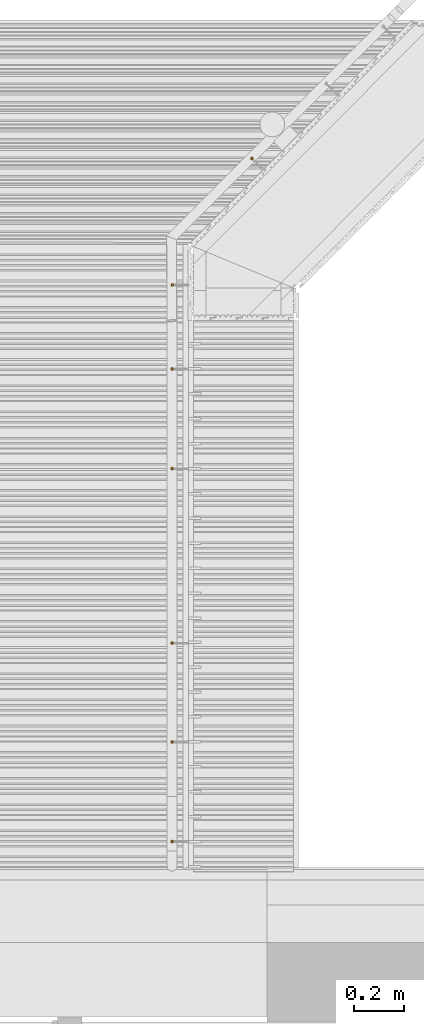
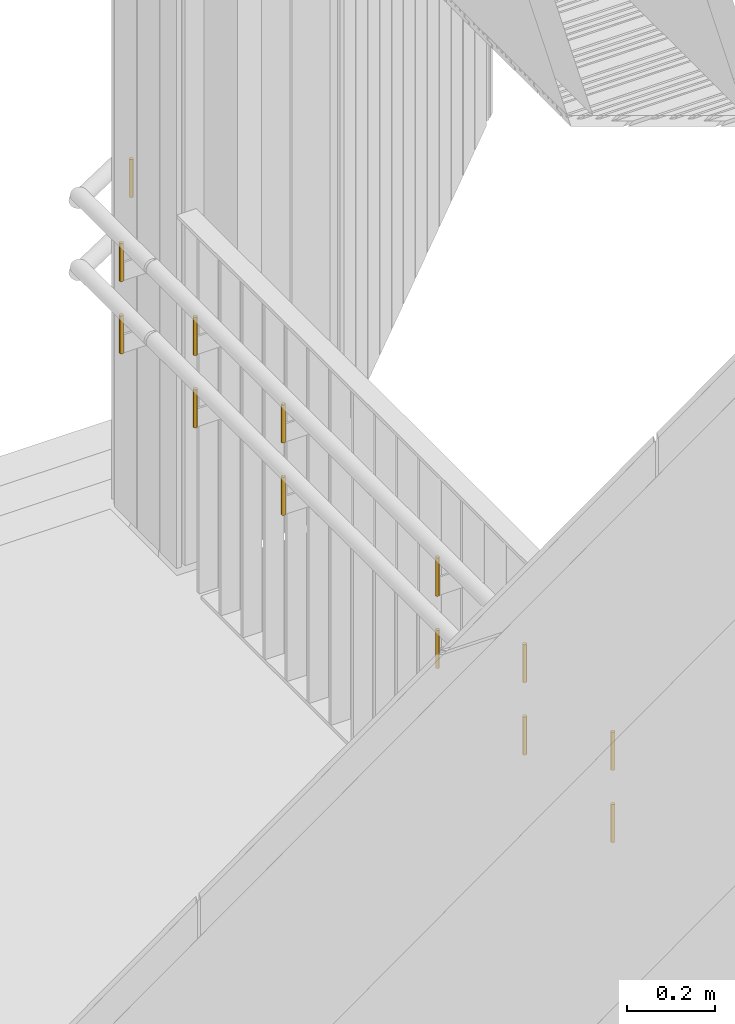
# One storey, part 163 of 418: 13 railings.
"""IFC2X3 building model written with IfcOpenShell, lengths in millimetres."""

from ifc_helpers import new_model, entity, si_unit, converted_unit, derived_unit, money_unit, direction, frame, origin_with_axes, origin_2d_with_axis, place, context, subcontext, project, spatial, circle, extrude, material, type_object, element, save


model = new_model("IFC2X3")

# Units and contexts
model_context = context("Model", 3, precision=0.01, world=origin_with_axes(), true_north=direction((0.0, 1.0)))
body_context = subcontext(model_context, "Body", "Model", "MODEL_VIEW")
ifc_project = project(units=[si_unit("LENGTHUNIT", "METRE", prefix="MILLI"), si_unit("AREAUNIT", "SQUARE_METRE"), si_unit("VOLUMEUNIT", "CUBIC_METRE"), converted_unit("PLANEANGLEUNIT", "DEGREE", entity("IfcPlaneAngleMeasure", 0.0174532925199), si_unit("PLANEANGLEUNIT", "RADIAN"), dimensions=[0, 0, 0, 0, 0, 0, 0]), si_unit("SOLIDANGLEUNIT", "STERADIAN"), money_unit("EUR"), converted_unit("TIMEUNIT", "Year", entity("IfcTimeMeasure", 31556926.0), si_unit("TIMEUNIT", "SECOND"), dimensions=[0, 0, 1, 0, 0, 0, 0]), si_unit("MASSUNIT", "GRAM", prefix="KILO"), si_unit("THERMODYNAMICTEMPERATUREUNIT", "DEGREE_CELSIUS"), si_unit("LUMINOUSINTENSITYUNIT", "LUMEN"), si_unit("ENERGYUNIT", "JOULE", prefix="MEGA"), derived_unit("THERMALCONDUCTANCEUNIT", [(si_unit("POWERUNIT", "WATT"), 1), (si_unit("LENGTHUNIT", "METRE"), -1), (si_unit("THERMODYNAMICTEMPERATUREUNIT", "KELVIN"), -1)]), derived_unit("SPECIFICHEATCAPACITYUNIT", [(si_unit("ENERGYUNIT", "JOULE"), 1), (si_unit("MASSUNIT", "GRAM", prefix="KILO"), -1), (si_unit("THERMODYNAMICTEMPERATUREUNIT", "KELVIN"), -1)]), derived_unit("MASSDENSITYUNIT", [(si_unit("MASSUNIT", "GRAM", prefix="KILO"), 1), (si_unit("VOLUMEUNIT", "CUBIC_METRE"), -1)])], contexts=[model_context])

# Site, building, storey
site_placement = place(None, origin_with_axes())
site = spatial("IfcSite", under=ifc_project, at=site_placement, Name="Paldiski mnt 245/1, Tallinn, Harjumaa", CompositionType="COMPLEX")
building_placement = place(site_placement, origin_with_axes())
building = spatial("IfcBuilding", under=site, at=building_placement, Name="RKAS Hoone üldnimetus (kasutust iseloomustav) -> IFC Project Manager -> SOLIBRI", CompositionType="ELEMENT")
storey_placement = place(building_placement, origin_with_axes())
storey = spatial("IfcBuildingStorey", under=building, at=storey_placement, Name="Esimene korrus", CompositionType="ELEMENT", Elevation=0.0)

# Railings
ifc_material = material(Name="ET-07_Teras - Roostevaba")
railing_type = type_object("IfcRailingType", Name="ET-07_Teras - Roostevaba D10", PredefinedType="NOTDEFINED")
for number, where, z_axis, x_axis in (
    (1, (-47990.6946236, 39233.939526, 547.535226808), (0.0, 0.0, 1.0), (0.707106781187, -0.707106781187, 0.0)),
    (2, (-48310.2840938, 37289.6479436, 733.9765826), (0.0, 0.0, 1.0), (1.0, 0.0, 0.0)),
    (3, (-48310.2840938, 36493.6479436, 533.554682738), (0.0, 0.0, 1.0), (1.0, 0.0, 0.0)),
    (4, (-48309.569123, 38726.3006116, 534.0), (0.0, 0.0, 1.0), (1.0, -2.53862281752e-08, 0.0)),
    (5, (-48310.2840938, 36893.6479436, 733.9765826), (0.0, 0.0, 1.0), (1.0, 0.0, 0.0)),
    (6, (-48309.569123, 38726.3006116, 734.421899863), (0.0, 0.0, 1.0), (1.0, -2.53862281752e-08, 0.0)),
    (7, (-48310.2840938, 38389.6479436, 533.554682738), (0.0, 0.0, 1.0), (1.0, 0.0, 0.0)),
    (8, (-48310.2840938, 37989.6479436, 533.554682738), (0.0, 0.0, 1.0), (1.0, 0.0, 0.0)),
    (9, (-48310.2840938, 37289.6479436, 533.554682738), (0.0, 0.0, 1.0), (1.0, 0.0, 0.0)),
    (10, (-48310.2840938, 36893.6479436, 533.554682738), (0.0, 0.0, 1.0), (1.0, 0.0, 0.0)),
    (11, (-48310.2840938, 36493.6479436, 733.9765826), (0.0, 0.0, 1.0), (1.0, 0.0, 0.0)),
    (12, (-48310.2840938, 38389.6479436, 733.9765826), (0.0, 0.0, 1.0), (1.0, 0.0, 0.0)),
    (13, (-48310.2840938, 37989.6479436, 733.9765826), (0.0, 0.0, 1.0), (1.0, 0.0, 0.0)),
):
    element("IfcRailing", number, at=place(storey_placement, frame(where, z_axis=z_axis, x_axis=x_axis)), inside=storey, type_object=railing_type, material=ifc_material, Name="Trepiire", PredefinedType="NOTDEFINED", context=body_context, shape_type="SweptSolid", body=[
        extrude(circle(Radius=5.0, at=origin_2d_with_axis()), frame((0.0, 0.0, 0.0), z_axis=(0.0, 0.0, -1.0), x_axis=(-1.0, 0.0, 0.0)), (0.0, 0.0, -1.0), 106.0),
    ])

save(model, "model.ifc")
